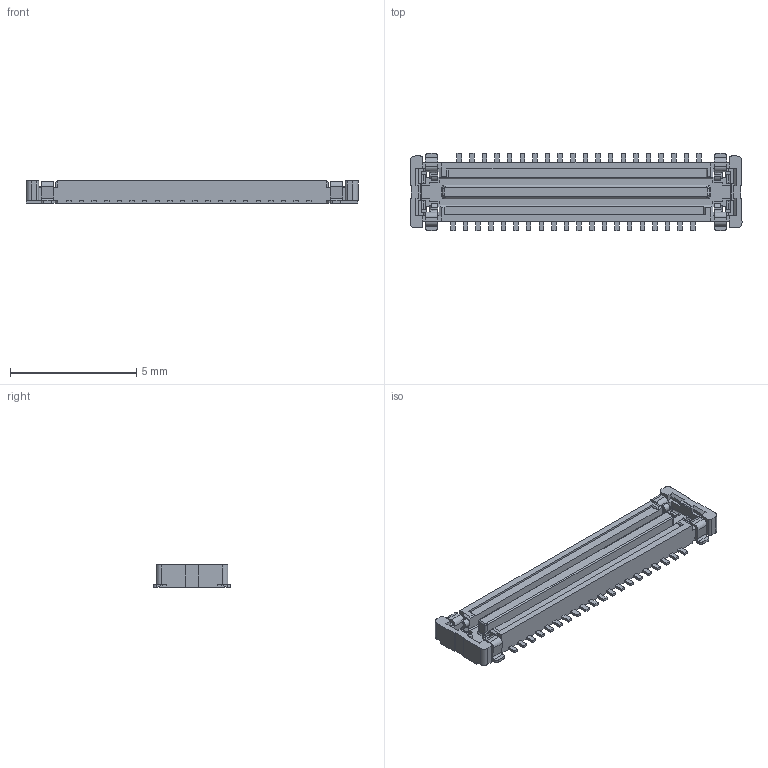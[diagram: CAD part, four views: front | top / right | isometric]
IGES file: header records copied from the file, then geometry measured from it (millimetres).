
Start section: Elysium IGES Interface
Global section: file name: C:\Users\1088\Desktop\P3C164_XSLS00-40\P3C164_XSLS00-40.igs; native system: CoCreate Modeling 17.0B  09-Oct-2010; preprocessor: CoCreate IGES_3D V2.2; author: Unknown; organization: Unknown; date: 20171121.112015; units: millimetre
Bounding box: 13.15 x 3.05 x 0.88 mm (x, y, z)
Volume: 20.8 mm3; surface area: 143.2 mm2
Topology: 1 solids, 1 shells, 543 faces, 1604 edges, 1052 vertices
Faces by surface type: bspline 543
